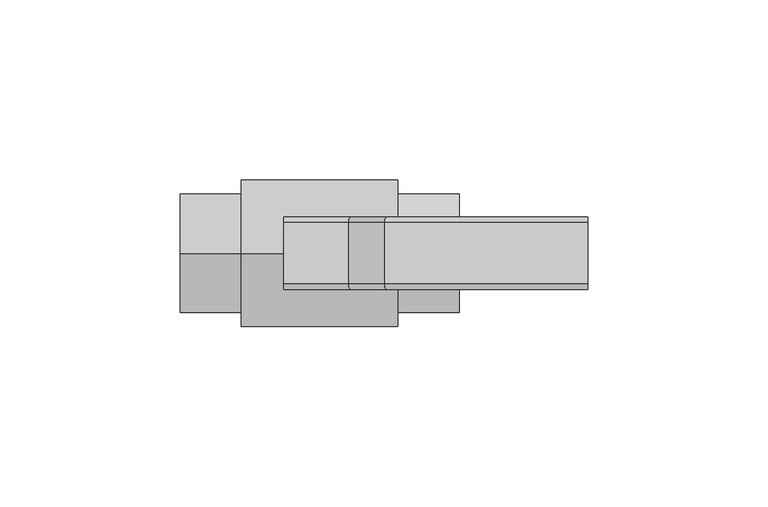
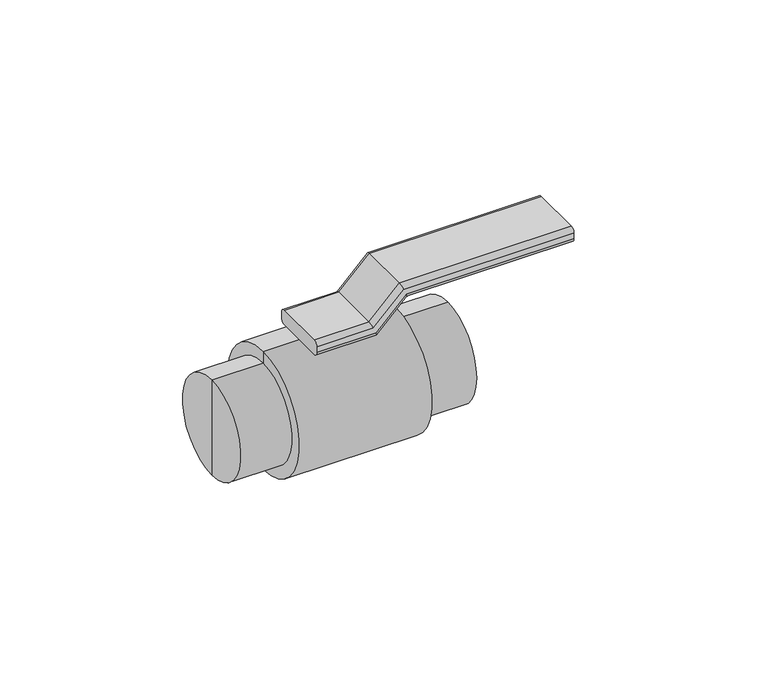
"""IFC4 building model written with IfcOpenShell, lengths in millimetres: valve geometry, NIRON RED valvula de paso esfera : Estándar."""

from ifc_helpers import new_model, si_unit, frame, origin, place, context, project, spatial, circle_curve, ellipse_curve, source, transform, mapped, element, save
from ifc_brep_helpers import plane_surface, cylinder_surface, advanced_brep


def valve_cb0bd665(model_context):
    return source(origin(), model_context, "Body", "AdvancedBrep", [
        advanced_brep(
        [(-10.0, 8.4844945, 20.5), (-10.0, -8.5, 20.5), (-10.0, -10.0, 22.0), (-10.0, -10.0, 24.0), (-10.0, -8.5, 25.5), (-10.0, 8.5, 25.5), (-10.0, 10.0, 24.0), (-10.0, 10.0, 22.0155055), (10.0, 8.4844945, 20.5), (10.0, -8.5, 20.5), (9.3786797, -10.0, 22.0), (19.3786797, -10.0, 32.0), (74.5, -10.0, 32.0), (74.5, -10.0, 34.0), (18.5502525, -10.0, 34.0), (8.5502525, -10.0, 24.0), (7.9289322, -8.5, 25.5), (7.9289322, 8.5, 25.5), (8.5502525, 10.0, 24.0), (18.5502525, 10.0, 34.0), (74.5, 10.0, 34.0), (74.5, 10.0, 32.0155055), (19.3722571, 10.0, 32.0155055), (9.3722571, 10.0, 22.0155055), (20.0, 8.4844945, 30.5), (20.0, -8.5, 30.5), (17.9289322, -8.5, 35.5), (17.9289322, 8.5, 35.5), (74.5, 8.4844945, 30.5), (74.5, 8.5, 35.5), (74.5, -8.5, 35.5), (74.5, -8.5, 30.5)],
        [
            (0, 1),
            (1, 2, circle_curve(frame((-10.0, -8.5, 22.0), z_axis=(-1.0, 0.0, 0.0), x_axis=(0.0, 0.0, 1.0)), 1.5)),
            (2, 3),
            (3, 4, circle_curve(frame((-10.0, -8.5, 24.0), z_axis=(-1.0, 0.0, 0.0), x_axis=(0.0, 0.0, 1.0)), 1.5)),
            (4, 5),
            (5, 6, circle_curve(frame((-10.0, 8.5, 24.0), z_axis=(-1.0, 0.0, 0.0), x_axis=(0.0, 0.0, 1.0)), 1.5)),
            (6, 7),
            (7, 0, circle_curve(frame((-10.0, 8.4844945, 22.0155055), z_axis=(-1.0, 0.0, 0.0), x_axis=(0.0, 0.0, 1.0)), 1.5155055)),
            (0, 8),
            (8, 9),
            (9, 1),
            (9, 10, ellipse_curve(frame((9.3786797, -8.5, 22.0), z_axis=(-0.9238795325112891, 0.0, -0.38268343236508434), x_axis=(-0.382683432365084, 0.0, 0.9238795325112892)), 1.6235883, 1.5)),
            (10, 2),
            (10, 11),
            (11, 12),
            (12, 13),
            (13, 14),
            (14, 15),
            (15, 3),
            (15, 16, ellipse_curve(frame((8.5502525, -8.5, 24.0), z_axis=(-0.9238795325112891, 0.0, -0.38268343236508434), x_axis=(-0.382683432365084, 0.0, 0.9238795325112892)), 1.6235883, 1.5)),
            (16, 4),
            (16, 17),
            (17, 5),
            (17, 18, ellipse_curve(frame((8.5502525, 8.5, 24.0), z_axis=(-0.9238795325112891, 0.0, -0.38268343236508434), x_axis=(-0.382683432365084, 0.0, 0.9238795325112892)), 1.6235883, 1.5)),
            (18, 6),
            (18, 19),
            (19, 20),
            (20, 21),
            (21, 22),
            (22, 23),
            (23, 7),
            (23, 8, ellipse_curve(frame((9.3722571, 8.4844945, 22.0155055), z_axis=(-0.9238795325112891, 0.0, -0.38268343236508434), x_axis=(-0.382683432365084, 0.0, 0.9238795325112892)), 1.6403713, 1.5155055)),
            (8, 24),
            (24, 25),
            (25, 9),
            (25, 11, ellipse_curve(frame((19.3786797, -8.5, 32.0), z_axis=(-0.9238795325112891, 0.0, -0.38268343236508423), x_axis=(0.3826834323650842, 0.0, -0.9238795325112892)), 1.6235883, 1.5)),
            (14, 26, ellipse_curve(frame((18.5502525, -8.5, 34.0), z_axis=(-0.9238795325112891, 0.0, -0.38268343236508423), x_axis=(0.3826834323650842, 0.0, -0.9238795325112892)), 1.6235883, 1.5)),
            (26, 16),
            (26, 27),
            (27, 17),
            (27, 19, ellipse_curve(frame((18.5502525, 8.5, 34.0), z_axis=(-0.9238795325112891, 0.0, -0.38268343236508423), x_axis=(0.3826834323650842, 0.0, -0.9238795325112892)), 1.6235883, 1.5)),
            (22, 24, ellipse_curve(frame((19.3722571, 8.4844945, 32.0155055), z_axis=(-0.9238795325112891, 0.0, -0.38268343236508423), x_axis=(0.3826834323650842, 0.0, -0.9238795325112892)), 1.6403713, 1.5155055)),
            (28, 21, circle_curve(frame((74.5, 8.4844945, 32.0155055), z_axis=(1.0, 0.0, 0.0), x_axis=(0.0, 0.0, 1.0)), 1.5155055)),
            (20, 29, circle_curve(frame((74.5, 8.5, 34.0), z_axis=(1.0, 0.0, 0.0), x_axis=(0.0, 0.0, 1.0)), 1.5)),
            (29, 30),
            (30, 13, circle_curve(frame((74.5, -8.5, 34.0), z_axis=(1.0, 0.0, 0.0), x_axis=(0.0, 0.0, 1.0)), 1.5)),
            (12, 31, circle_curve(frame((74.5, -8.5, 32.0), z_axis=(1.0, 0.0, 0.0), x_axis=(0.0, 0.0, 1.0)), 1.5)),
            (31, 28),
            (24, 28),
            (31, 25),
            (30, 26),
            (29, 27),
        ],
        [
            plane_surface(frame((-10.0, 0.0, 20.5), z_axis=(-1.0, 0.0, 0.0), x_axis=(0.0, -1.0, 0.0))),
            plane_surface(frame((-10.0, 8.4844945, 20.5), z_axis=(0.0, 0.0, -1.0), x_axis=(1.0, 0.0, 0.0))),
            cylinder_surface(frame((-10.0, -8.5, 22.0), z_axis=(-1.0, 0.0, 0.0), x_axis=(0.0, 0.0, 1.0)), 1.5),
            plane_surface(frame((-10.0, -10.0, 22.0), z_axis=(0.0, -1.0, 0.0), x_axis=(1.0, 0.0, 0.0))),
            cylinder_surface(frame((-10.0, -8.5, 24.0), z_axis=(-1.0, 0.0, 0.0), x_axis=(0.0, 0.0, 1.0)), 1.5),
            plane_surface(frame((-10.0, -8.5, 25.5), z_axis=(0.0, 0.0, 1.0), x_axis=(1.0, 0.0, 0.0))),
            cylinder_surface(frame((-10.0, 8.5, 24.0), z_axis=(-1.0, 0.0, 0.0), x_axis=(0.0, 0.0, 1.0)), 1.5),
            plane_surface(frame((-10.0, 10.0, 24.0), z_axis=(0.0, 1.0, 0.0), x_axis=(1.0, 0.0, 0.0))),
            cylinder_surface(frame((-10.0, 8.4844945, 22.0155055), z_axis=(-1.0, 0.0, 0.0), x_axis=(0.0, 0.0, 1.0)), 1.5155055),
            plane_surface(frame((10.0, 8.4844945, 20.5), z_axis=(0.7071067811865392, 0.0, -0.7071067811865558), x_axis=(0.7071067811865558, 0.0, 0.7071067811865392))),
            cylinder_surface(frame((8.9393398, -8.5, 21.5606602), z_axis=(-0.7071067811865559, 0.0, -0.7071067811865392), x_axis=(-0.7071067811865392, 0.0, 0.7071067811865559)), 1.5),
            cylinder_surface(frame((7.5251263, -8.5, 22.9748737), z_axis=(-0.7071067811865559, 0.0, -0.7071067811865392), x_axis=(-0.7071067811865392, 0.0, 0.7071067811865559)), 1.5),
            plane_surface(frame((7.9289322, -8.5, 25.5), z_axis=(-0.7071067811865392, 0.0, 0.7071067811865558), x_axis=(0.7071067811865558, 0.0, 0.7071067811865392))),
            cylinder_surface(frame((7.5251263, 8.5, 22.9748737), z_axis=(-0.7071067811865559, 0.0, -0.7071067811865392), x_axis=(-0.7071067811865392, 0.0, 0.7071067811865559)), 1.5),
            cylinder_surface(frame((8.9283758, 8.4844945, 21.5716242), z_axis=(-0.7071067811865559, 0.0, -0.7071067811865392), x_axis=(-0.7071067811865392, 0.0, 0.7071067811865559)), 1.5155055),
            plane_surface(frame((74.5, 0.0, 30.5), z_axis=(1.0, 0.0, 0.0), x_axis=(0.0, -1.0, 0.0))),
            plane_surface(frame((20.0, 8.4844945, 30.5), z_axis=(0.0, 0.0, -1.0), x_axis=(1.0, 0.0, 0.0))),
            cylinder_surface(frame((20.0, -8.5, 32.0), z_axis=(-1.0, 0.0, 0.0), x_axis=(0.0, 0.0, 1.0)), 1.5),
            cylinder_surface(frame((20.0, -8.5, 34.0), z_axis=(-1.0, 0.0, 0.0), x_axis=(0.0, 0.0, 1.0)), 1.5),
            plane_surface(frame((17.9289322, -8.5, 35.5), z_axis=(0.0, 0.0, 1.0), x_axis=(1.0, 0.0, 0.0))),
            cylinder_surface(frame((20.0, 8.5, 34.0), z_axis=(-1.0, 0.0, 0.0), x_axis=(0.0, 0.0, 1.0)), 1.5),
            cylinder_surface(frame((20.0, 8.4844945, 32.0155055), z_axis=(-1.0, 0.0, 0.0), x_axis=(0.0, 0.0, 1.0)), 1.5155055),
        ],
        [
            (0, [[1, 2, 3, 4, 5, 6, 7, 8]]),
            (1, [[-1, 9, 10, 11]]),
            (2, [[-2, -11, 12, 13]]),
            (3, [[-3, -13, 14, 15, 16, 17, 18, 19]]),
            (4, [[-4, -19, 20, 21]]),
            (5, [[-5, -21, 22, 23]]),
            (6, [[-6, -23, 24, 25]]),
            (7, [[-7, -25, 26, 27, 28, 29, 30, 31]]),
            (8, [[-8, -31, 32, -9]]),
            (9, [[-10, 33, 34, 35]]),
            (10, [[-12, -35, 36, -14]]),
            (11, [[-20, -18, 37, 38]]),
            (12, [[-22, -38, 39, 40]]),
            (13, [[-24, -40, 41, -26]]),
            (14, [[-32, -30, 42, -33]]),
            (15, [[43, -28, 44, 45, 46, -16, 47, 48]]),
            (16, [[-34, 49, -48, 50]]),
            (17, [[-36, -50, -47, -15]]),
            (18, [[-37, -17, -46, 51]]),
            (19, [[-39, -51, -45, 52]]),
            (20, [[-41, -52, -44, -27]]),
            (21, [[-42, -29, -43, -49]]),
        ],
    ),
        advanced_brep(
        [(-38.75, 0.0, 0.0), (-38.75, 0.0, 16.5), (-38.75, 0.0, -16.5), (38.75, 0.0, -16.5), (38.75, 0.0, 16.5), (38.75, 0.0, 0.0), (21.75, 0.0, -16.5), (21.75, 0.0, 16.5), (21.75, 0.0, -20.5), (21.75, 0.0, 20.5), (-21.75, 0.0, -20.5), (-21.75, 0.0, 20.5), (-21.75, 0.0, -16.5), (-21.75, 0.0, 16.5)],
        [
            (0, 1),
            (1, 2, circle_curve(frame((-38.75, 0.0, 0.0), z_axis=(-1.0, 0.0, 0.0), x_axis=(0.0, 0.0, 1.0)), 16.5)),
            (2, 0),
            (2, 1, circle_curve(frame((-38.75, 0.0, 0.0), z_axis=(-1.0, 0.0, 0.0), x_axis=(0.0, 0.0, 1.0)), 16.5)),
            (3, 4, circle_curve(frame((38.75, 0.0, 0.0), z_axis=(1.0, 0.0, 0.0), x_axis=(0.0, 0.0, 1.0)), 16.5)),
            (4, 5),
            (5, 3),
            (4, 3, circle_curve(frame((38.75, 0.0, 0.0), z_axis=(1.0, 0.0, 0.0), x_axis=(0.0, 0.0, 1.0)), 16.5)),
            (6, 7, circle_curve(frame((21.75, 0.0, 0.0), z_axis=(1.0, 0.0, 0.0), x_axis=(0.0, 0.0, 1.0)), 16.5)),
            (7, 4),
            (3, 6),
            (7, 6, circle_curve(frame((21.75, 0.0, 0.0), z_axis=(1.0, 0.0, 0.0), x_axis=(0.0, 0.0, 1.0)), 16.5)),
            (8, 9, circle_curve(frame((21.75, 0.0, 0.0), z_axis=(1.0, 0.0, 0.0), x_axis=(0.0, 0.0, 1.0)), 20.5)),
            (9, 7),
            (6, 8),
            (9, 8, circle_curve(frame((21.75, 0.0, 0.0), z_axis=(1.0, 0.0, 0.0), x_axis=(0.0, 0.0, 1.0)), 20.5)),
            (10, 11, circle_curve(frame((-21.75, 0.0, 0.0), z_axis=(1.0, 0.0, 0.0), x_axis=(0.0, 0.0, 1.0)), 20.5)),
            (11, 9),
            (8, 10),
            (11, 10, circle_curve(frame((-21.75, 0.0, 0.0), z_axis=(1.0, 0.0, 0.0), x_axis=(0.0, 0.0, 1.0)), 20.5)),
            (12, 13, circle_curve(frame((-21.75, 0.0, 0.0), z_axis=(1.0, 0.0, 0.0), x_axis=(0.0, 0.0, 1.0)), 16.5)),
            (13, 11),
            (10, 12),
            (13, 12, circle_curve(frame((-21.75, 0.0, 0.0), z_axis=(1.0, 0.0, 0.0), x_axis=(0.0, 0.0, 1.0)), 16.5)),
            (1, 13),
            (12, 2),
        ],
        [
            plane_surface(frame((-38.75, 0.0, 0.0), z_axis=(-1.0, 0.0, 0.0), x_axis=(0.0, 0.0, 1.0))),
            plane_surface(frame((38.75, 0.0, 0.0), z_axis=(1.0, 0.0, 0.0), x_axis=(0.0, 0.0, 1.0))),
            cylinder_surface(frame((-1344.296, 0.0, 0.0), z_axis=(-1.0, 0.0, 0.0), x_axis=(0.0, 0.0, 1.0)), 16.5),
            plane_surface(frame((21.75, 0.0, 0.0), z_axis=(1.0, 0.0, 0.0), x_axis=(0.0, 0.0, 1.0))),
            cylinder_surface(frame((-1344.296, 0.0, 0.0), z_axis=(-1.0, 0.0, 0.0), x_axis=(0.0, 0.0, 1.0)), 20.5),
            plane_surface(frame((-21.75, 0.0, 0.0), z_axis=(-1.0, 0.0, 0.0), x_axis=(0.0, 0.0, 1.0))),
        ],
        [
            (0, [[1, 2, 3]]),
            (0, [[-3, 4, -1]]),
            (1, [[5, 6, 7]]),
            (1, [[8, -7, -6]]),
            (2, [[9, 10, -5, 11]]),
            (2, [[12, -11, -8, -10]]),
            (3, [[13, 14, -9, 15]]),
            (3, [[16, -15, -12, -14]]),
            (4, [[17, 18, -13, 19]]),
            (4, [[20, -19, -16, -18]]),
            (5, [[21, 22, -17, 23]]),
            (5, [[24, -23, -20, -22]]),
            (2, [[-2, 25, -21, 26]]),
            (2, [[-4, -26, -24, -25]]),
        ],
    ),
    ])


if __name__ == "__main__":
    model = new_model("IFC4")
    model_context = context("Model", 3, world=origin())
    ifc_project = project(units=[si_unit("LENGTHUNIT", "METRE", prefix="MILLI")], contexts=[model_context])
    site = spatial("IfcSite", under=ifc_project)
    building = spatial("IfcBuilding", under=site)
    placement = place(None, origin())
    valve_shape = valve_cb0bd665(model_context)
    element("IfcValve", 1, ObjectType="NIRON RED valvula de paso esfera : Estándar", at=placement, inside=building, context=model_context, shape_type="MappedRepresentation", body=[
        mapped(valve_shape, transform((0.0, 0.0, 0.0), x_axis=(1.0, 0.0, 0.0), y_axis=(0.0, 1.0, 0.0), z_axis=(0.0, 0.0, 1.0))),
    ])
    save(model, "model.ifc")
